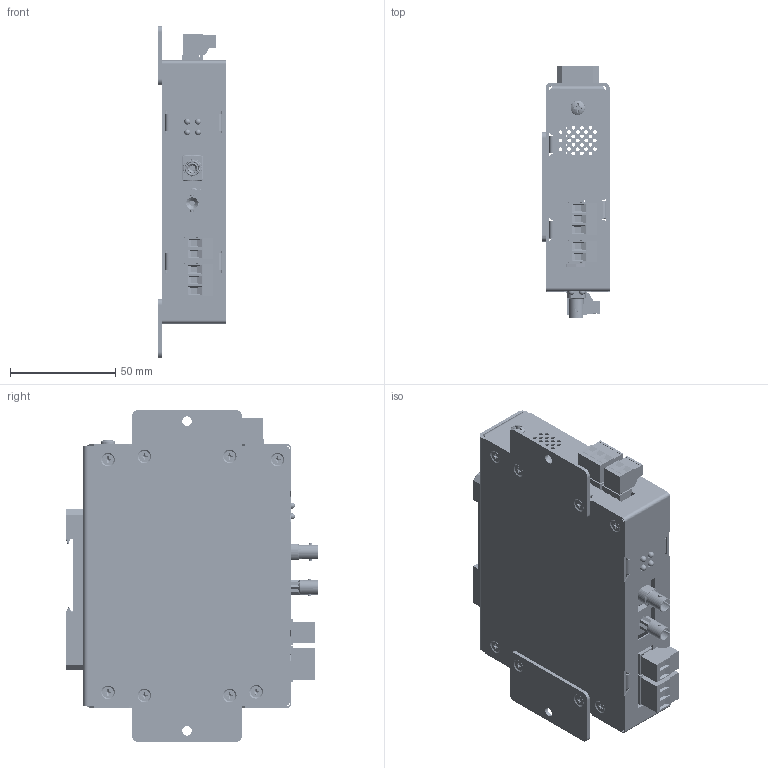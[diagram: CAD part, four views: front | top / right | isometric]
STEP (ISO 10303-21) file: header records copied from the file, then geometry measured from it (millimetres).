
FILE_DESCRIPTION(/* description */ ('STEP AP242','CAx-IF Rec.Pracs.---Representation and Presentation of Product Manufacturing Information (PMI)---4.0---2014-10-13','CAx-IF Rec.Pracs.---3D Tessellated Geometry---0.4---2014-09-14','2;1'),/* implementation_level */ '2;1');
FILE_NAME(/* name */ '618eb4d2bbaff54bf59de3e7',/* time_stamp */ '2021-11-12T18:39:18+00:00',/* author */ (''),/* organization */ (''),/* preprocessor_version */ 'ST-DEVELOPER v18.1',/* originating_system */ ' ',/* authorisation */ ' ');
FILE_SCHEMA (('AP242_MANAGED_MODEL_BASED_3D_ENGINEERING_MIM_LF { 1 0 10303 442 1 1 4 }'));
Products named in the file (65): CD-395 - 1CD-IO-XX-1-Wall - Rev D; 96640A334_Black-Oxide 18-8 Stainless Steel Phillips Flat Head Screws; 96640A115_Black-Oxide 18-8 Stainless Steel Phillips Flat Head Screws; PRODUCT_NAME_1; H-105 Rear Housing <1>; 95185A130_Zinc-Plated Steel Press-Fit Nut for Sheet Metal; Part 1; 91772A144_Passivated 18-8 Stainless Steel Pan Head Phillips Screw; DINM12-RC-Assy <1>; DINM12-RC; spring^DINM12-RC-Assy; Spring clip; H-128 - SINGLE CONTACT CLOSURE DIN FRONT COVER Rev D <1>; PCB-1CD-XX-1 -Transmitter <1>; C-796634-3; C-796634-2; HFBR-x41xTxZ; C-796638-3; HFBR-X41X <1>; HFBR-X41X Part4; HFBR-X41X Part3; HFBR-X41X Part2; HFBR-X41X Part1; C-796638-2
Assembly tree (107 placements, depth 4):
  CD-395 - 1CD-IO-XX-1-Wall - Rev D
    96640A334_Black-Oxide 18-8 Stainless Steel Phillips Flat Head Screws  x14
    96640A115_Black-Oxide 18-8 Stainless Steel Phillips Flat Head Screws  x3
    PRODUCT_NAME_1  x4
    H-105 Rear Housing <1>
      95185A130_Zinc-Plated Steel Press-Fit Nut for Sheet Metal  x3
      Part 1
    Part 1  x2
    91772A144_Passivated 18-8 Stainless Steel Pan Head Phillips Screw
    DINM12-RC-Assy <1>
      DINM12-RC
      spring^DINM12-RC-Assy
      spring^DINM12-RC-Assy
      Spring clip
    H-128 - SINGLE CONTACT CLOSURE DIN FRONT COVER Rev D <1>
      PRODUCT_NAME_1  x10
      PRODUCT_NAME_1
      Part 1
    PCB-1CD-XX-1 -Transmitter <1>
      Part 1  x3
      C-796634-3  x2
      C-796634-2  x2
      HFBR-x41xTxZ
      Part 1  x2
      Part 1
      C-796638-3  x2
      HFBR-X41X <1>
        HFBR-X41X Part4
        HFBR-X41X Part3  x4
        HFBR-X41X Part2  x4
        HFBR-X41X Part4
        HFBR-X41X Part4
        HFBR-X41X Part4
        HFBR-X41X Part4
        HFBR-X41X Part4
        HFBR-X41X Part4
        HFBR-X41X Part4
        HFBR-X41X Part4
        HFBR-X41X Part4
        HFBR-X41X Part4
        HFBR-X41X Part4
        HFBR-X41X Part4
        HFBR-X41X Part4
        HFBR-X41X Part4
        HFBR-X41X Part1
        HFBR-X41X Part4
        HFBR-X41X Part4
        HFBR-X41X Part4
        HFBR-X41X Part4
        HFBR-X41X Part4
        HFBR-X41X Part4
        HFBR-X41X Part4
        HFBR-X41X Part4
        HFBR-X41X Part4
        HFBR-X41X Part4
        HFBR-X41X Part4
        HFBR-X41X Part4
        HFBR-X41X Part4
        HFBR-X41X Part4
        HFBR-X41X Part4
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Bounding box: 32.1 x 120.01 x 157.99 mm (x, y, z)
Volume: 97846.5 mm3; surface area: 130054.6 mm2
Topology: 102 solids, 103 shells, 4669 faces, 13222 edges, 8993 vertices
Faces by surface type: plane 3107, cylinder 1087, cone 227, bspline 164, torus 57, sphere 27
Full cylindrical faces by diameter (mm): 0.46 x12, 0.5 x2, 0.9 x4, 1.5 x4, 1.905 x143, 2.156 x14, 2.5 x2, 2.647 x1, 2.845 x112, 2.9 x4, 3.251 x18, 3.505 x24, 3.556 x4, 4 x13, 4.089 x4, 4.191 x10, 4.216 x14, 4.5 x1, 4.572 x2, 4.724 x1, 4.75 x1, 4.763 x3, 4.826 x3, 4.889 x10, 5.41 x8, 5.563 x13, 5.588 x10, 5.65 x1, 5.8 x1, 6.401 x1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
Entity records: 93715 total; most frequent: CARTESIAN_POINT 25943, ORIENTED_EDGE 12984, DIRECTION 12387, EDGE_CURVE 6494, VERTEX_POINT 4471, LINE 4403, VECTOR 4403, AXIS2_PLACEMENT_3D 3992
